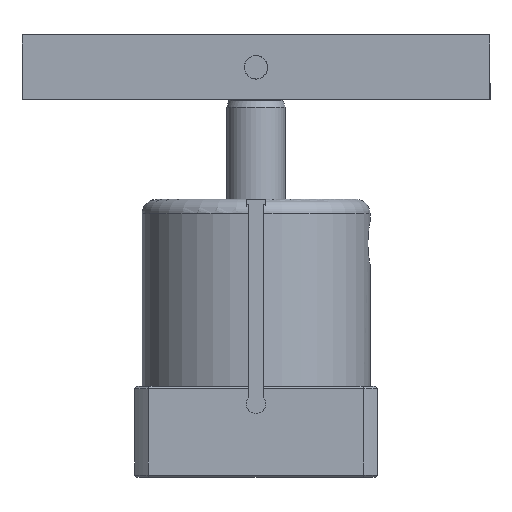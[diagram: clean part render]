
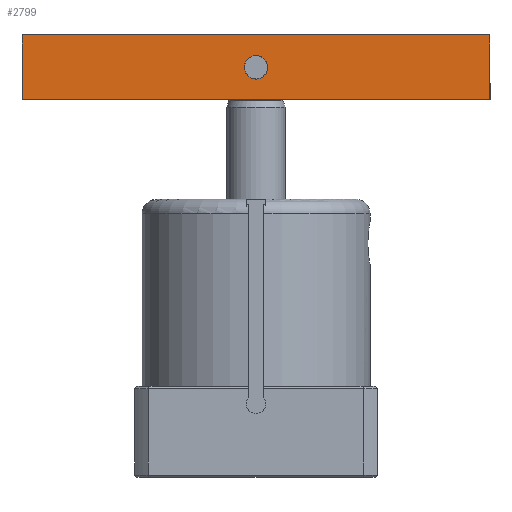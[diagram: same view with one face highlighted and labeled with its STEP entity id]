
A CAD part, front view. The second image highlights one B-rep face of the part: STEP entity #2799.
In plain terms, the highlighted planar face has unit normal (0, -1, 0).
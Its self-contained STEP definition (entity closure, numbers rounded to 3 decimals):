
#164=LINE('',#4559,#288);
#172=LINE('',#4577,#296);
#173=LINE('',#4581,#297);
#174=LINE('',#4582,#298);
#288=VECTOR('',#3590,1000.);
#296=VECTOR('',#3604,1000.);
#297=VECTOR('',#3609,1000.);
#298=VECTOR('',#3610,1000.);
#468=PLANE('',#3042);
#998=ORIENTED_EDGE('',*,*,#1311,.F.);
#999=ORIENTED_EDGE('',*,*,#1312,.F.);
#1000=ORIENTED_EDGE('',*,*,#1310,.F.);
#1001=ORIENTED_EDGE('',*,*,#1313,.T.);
#1002=ORIENTED_EDGE('',*,*,#1301,.T.);
#1301=EDGE_CURVE('',#1504,#1502,#164,.T.);
#1310=EDGE_CURVE('',#1510,#1509,#172,.T.);
#1311=EDGE_CURVE('',#1511,#1511,#1616,.T.);
#1312=EDGE_CURVE('',#1509,#1502,#173,.T.);
#1313=EDGE_CURVE('',#1510,#1504,#174,.T.);
#1502=VERTEX_POINT('',#4557);
#1504=VERTEX_POINT('',#4560);
#1509=VERTEX_POINT('',#4574);
#1510=VERTEX_POINT('',#4576);
#1511=VERTEX_POINT('',#4580);
#1616=CIRCLE('',#3043,4.);
#1806=EDGE_LOOP('',(#998));
#1807=EDGE_LOOP('',(#999,#1000,#1001,#1002));
#2007=FACE_BOUND('',#1806,.T.);
#2008=FACE_BOUND('',#1807,.T.);
#2799=ADVANCED_FACE('',(#2007,#2008),#468,.T.);
#3042=AXIS2_PLACEMENT_3D('',#4578,#3605,#3606);
#3043=AXIS2_PLACEMENT_3D('',#4579,#3607,#3608);
#3590=DIRECTION('',(0.,0.,1.));
#3604=DIRECTION('',(0.,0.,1.));
#3605=DIRECTION('',(0.,-1.,0.));
#3606=DIRECTION('',(0.,0.,-1.));
#3607=DIRECTION('',(0.,-1.,0.));
#3608=DIRECTION('',(1.,0.,0.));
#3609=DIRECTION('',(1.,0.,0.));
#3610=DIRECTION('',(1.,0.,0.));
#4557=CARTESIAN_POINT('',(80.,1.5,11.1));
#4559=CARTESIAN_POINT('',(80.,1.5,-11.1));
#4560=CARTESIAN_POINT('',(80.,1.5,-11.1));
#4574=CARTESIAN_POINT('',(-80.,1.5,11.1));
#4576=CARTESIAN_POINT('',(-80.,1.5,-11.1));
#4577=CARTESIAN_POINT('',(-80.,1.5,-11.1));
#4578=CARTESIAN_POINT('',(-80.,1.5,-11.1));
#4579=CARTESIAN_POINT('',(0.,1.5,0.));
#4580=CARTESIAN_POINT('',(4.,1.5,0.));
#4581=CARTESIAN_POINT('',(-80.,1.5,11.1));
#4582=CARTESIAN_POINT('',(-80.,1.5,-11.1));
